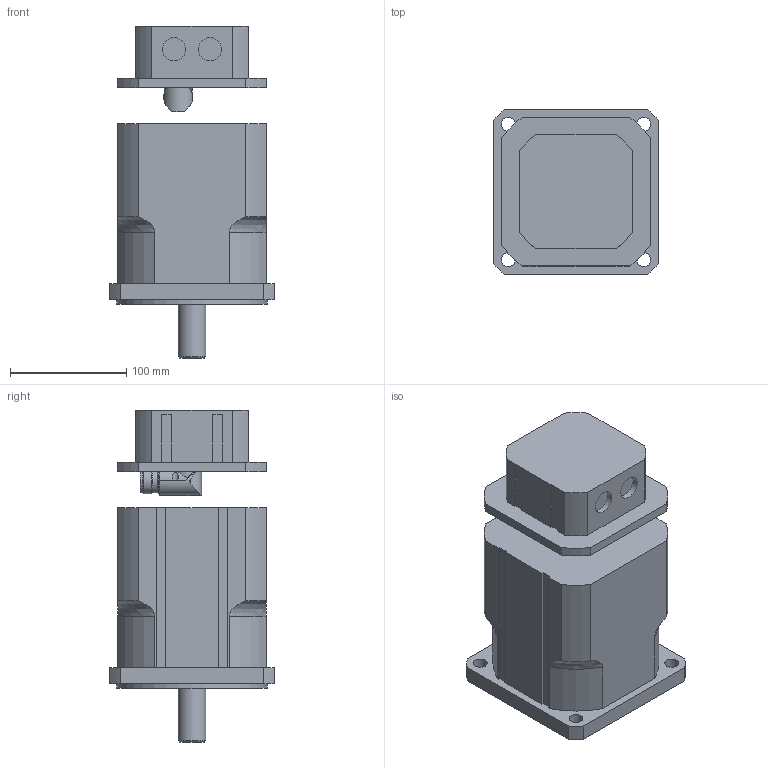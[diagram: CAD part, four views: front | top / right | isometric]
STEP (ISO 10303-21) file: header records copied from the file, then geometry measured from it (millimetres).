
FILE_DESCRIPTION(/* description */ ('Alibre Inc.'),/* implementation_level */ '2;1');
FILE_NAME(/* name */ 'export2',/* time_stamp */ '2013-07-16T08:45:07+02:00',/* author */ (''),/* organization */ (''),/* preprocessor_version */ 'ST-DEVELOPER v12',/* originating_system */ 'Alibre',/* authorisation */ '');
FILE_SCHEMA (('ALIBRE_SCHEMA','CONFIG_CONTROL_DESIGN'));
Length unit declared in the file: millimetre
Products named in the file (5): ID_1
Bounding box: 142 x 142 x 286 mm (x, y, z)
Volume: 2988109.9 mm3; surface area: 201624.8 mm2
Topology: 4 solids, 4 shells, 165 faces, 444 edges, 295 vertices
Faces by surface type: plane 81, cylinder 72, cone 7, torus 4, bspline 1
Full cylindrical faces by diameter (mm): 2.7 x4, 6.647 x1, 12 x4, 20 x5, 22 x2, 24 x1, 130 x1
Entity records: 20024 total; most frequent: CARTESIAN_POINT 4402, ORIENTED_EDGE 2536, DIRECTION 2492, EDGE_CURVE 1268, AXIS2_PLACEMENT_3D 939, VERTEX_POINT 888, VECTOR 884, LINE 846
